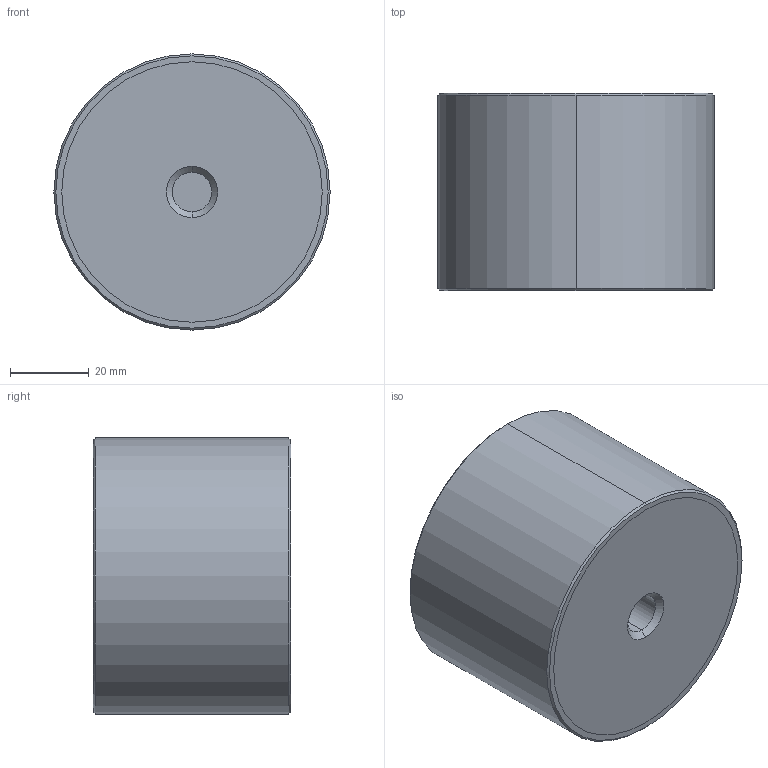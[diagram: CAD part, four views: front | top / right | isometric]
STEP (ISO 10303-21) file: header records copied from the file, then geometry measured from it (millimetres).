
FILE_DESCRIPTION (( 'STEP AP203' ), '1' );
FILE_NAME ('61080.W0702.step', '2018-07-16T20:46:13', ( '' ), ( '' ), 'SwSTEP 2.0', 'SolidWorks 2017', '' );
FILE_SCHEMA (( 'CONFIG_CONTROL_DESIGN' ));
Length unit declared in the file: millimetre
Products named in the file (4): Part3_61080.W0702; 61080.W0702; Part2_61080.W0702; Part1_61080.W0702
Assembly tree (3 placements, depth 2):
  61080.W0702
    Part1_61080.W0702
    Part2_61080.W0702
    Part3_61080.W0702
Bounding box: 70 x 50 x 70 mm (x, y, z)
Volume: 190719.3 mm3; surface area: 33756.7 mm2
Topology: 3 solids, 3 shells, 32 faces, 62 edges, 40 vertices
Faces by surface type: cylinder 14, plane 10, cone 8
Entity records: 1256 total; most frequent: DIRECTION 178, CARTESIAN_POINT 140, ORIENTED_EDGE 124, AXIS2_PLACEMENT_3D 78, EDGE_CURVE 62, CIRCLE 40, VERTEX_POINT 40, EDGE_LOOP 40
